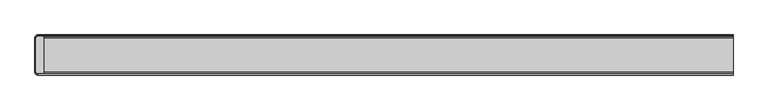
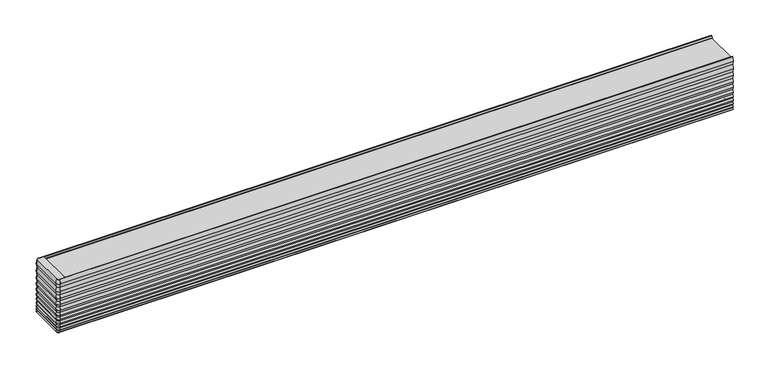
"""IFC4 building model written with IfcOpenShell, lengths in millimetres: light fixture geometry, Lighting-Ceiling-Betacalco-Bellows-Straight : BLLC-DT1-SL04-LPF020-CR80-CTA40-DD1-FA01."""

from ifc_helpers import new_model, si_unit, point, frame, frame_2d, origin, place, context, project, spatial, polyline, circle_curve, trimmed, segment, composite_curve, outline, extrude, source, transform, mapped, element, save
from ifc_brep_helpers import plane_surface, revolved_surface, advanced_brep


def light_fixture_fc643ec0(model_context):
    return source(origin(), model_context, "Body", "SolidModel", [
        advanced_brep(
        [(-609.6, -35.1474913, 2.032), (-609.6, -33.3694913, 0.0), (-609.6, 33.3694913, 0.0), (-609.6, 35.1474913, 2.032), (-609.6, 33.3694913, 4.064), (-609.6, 35.1474913, 6.604), (-609.6, 33.3694913, 9.144), (-609.6, 35.1474913, 12.192), (-609.6, 33.3694913, 15.24), (-609.6, 35.1474913, 18.796), (-609.6, 33.3694913, 22.352), (-609.6, 35.1474913, 26.162), (-609.6, 33.3694913, 29.972), (-609.6, 35.11885, 34.4703509), (-609.6, 33.3966915, 39.0460566), (-609.6, 35.1239968, 44.1288728), (-609.6, 33.3919128, 49.2119386), (-609.6, 35.1278878, 54.802389), (-609.6, 33.3882749, 60.3929656), (-609.6, 35.1308966, 66.491104), (-609.6, 33.3848944, 72.5911894), (-609.6, 35.1351705, 79.7067168), (-609.6, 33.3815995, 86.8195673), (-609.6, 35.1359826, 94.186321), (-609.6, 33.3694913, 101.6), (-609.6, 32.6229178, 101.6), (-609.6, 32.6229178, 100.2332722), (-609.6, -32.6229178, 100.2332722), (-609.6, -32.6229178, 101.6), (-609.6, -33.3694913, 101.6), (-609.6, -35.1359826, 94.186321), (-609.6, -33.3815995, 86.8195673), (-609.6, -35.1351705, 79.7067168), (-609.6, -33.3848944, 72.5911894), (-609.6, -35.1308966, 66.491104), (-609.6, -33.3882749, 60.3929656), (-609.6, -35.1278878, 54.802389), (-609.6, -33.3919128, 49.2119386), (-609.6, -35.1239968, 44.1288728), (-609.6, -33.3966915, 39.0460566), (-609.6, -35.11885, 34.4703509), (-609.6, -33.3694913, 29.972), (-609.6, -35.1474913, 26.162), (-609.6, -33.3694913, 22.352), (-609.6, -35.1474913, 18.796), (-609.6, -33.3694913, 15.24), (-609.6, -35.1474913, 12.192), (-609.6, -33.3694913, 9.144), (-609.6, -35.1474913, 6.604), (-609.6, -33.3694913, 4.064), (-614.791, -29.9564913, 2.032), (-613.013, -29.9564913, 0.0), (-613.013, 29.9564913, 0.0), (-613.013, -29.9564913, 101.6), (-600.7807007, -32.5154703, 101.6), (-599.6222216, -31.4000598, 101.6), (-599.6222216, 31.4000598, 101.6), (-600.7807007, 32.5154703, 101.6), (-613.013, 29.9564913, 101.6), (-614.7794913, -29.9564913, 94.186321), (-613.0251082, -29.9564913, 86.8195673), (-614.7786792, -29.9564913, 79.7067168), (-613.0284031, -29.9564913, 72.5911894), (-614.7744054, -29.9564913, 66.491104), (-613.0317837, -29.9564913, 60.3929656), (-614.7713965, -29.9564913, 54.802389), (-613.0354215, -29.9564913, 49.2119386), (-614.7675055, -29.9564913, 44.1288728), (-613.0402002, -29.9564913, 39.0460566), (-614.7623587, -29.9564913, 34.4703509), (-613.013, -29.9564913, 29.972), (-614.791, -29.9564913, 26.162), (-613.013, -29.9564913, 22.352), (-614.791, -29.9564913, 18.796), (-613.013, -29.9564913, 15.24), (-614.791, -29.9564913, 12.192), (-613.013, -29.9564913, 9.144), (-614.791, -29.9564913, 6.604), (-613.013, -29.9564913, 4.064), (-614.791, 29.9564913, 2.032), (-614.7794913, 29.9564913, 94.186321), (-613.0251082, 29.9564913, 86.8195673), (-614.7786792, 29.9564913, 79.7067168), (-613.0284031, 29.9564913, 72.5911894), (-614.7744054, 29.9564913, 66.491104), (-613.0317837, 29.9564913, 60.3929656), (-614.7713965, 29.9564913, 54.802389), (-613.0354215, 29.9564913, 49.2119386), (-614.7675055, 29.9564913, 44.1288728), (-613.0402002, 29.9564913, 39.0460566), (-614.7623587, 29.9564913, 34.4703509), (-613.013, 29.9564913, 29.972), (-614.791, 29.9564913, 26.162), (-613.013, 29.9564913, 22.352), (-614.791, 29.9564913, 18.796), (-613.013, 29.9564913, 15.24), (-614.791, 29.9564913, 12.192), (-613.013, 29.9564913, 9.144), (-614.791, 29.9564913, 6.604), (-613.013, 29.9564913, 4.064), (-599.6222216, 31.4000598, 100.2332722), (-599.6222216, -31.4000598, 100.2332722), (-600.7807007, -32.5154703, 100.2332722), (-600.7807007, 32.5154703, 100.2332722)],
        [
            (0, 1),
            (1, 2),
            (2, 3),
            (3, 4),
            (4, 5),
            (5, 6),
            (6, 7),
            (7, 8),
            (8, 9),
            (9, 10),
            (10, 11),
            (11, 12),
            (12, 13),
            (13, 14),
            (14, 15),
            (15, 16),
            (16, 17),
            (17, 18),
            (18, 19),
            (19, 20),
            (20, 21),
            (21, 22),
            (22, 23),
            (23, 24),
            (24, 25),
            (25, 26),
            (26, 27),
            (27, 28),
            (28, 29),
            (29, 30),
            (30, 31),
            (31, 32),
            (32, 33),
            (33, 34),
            (34, 35),
            (35, 36),
            (36, 37),
            (37, 38),
            (38, 39),
            (39, 40),
            (40, 41),
            (41, 42),
            (42, 43),
            (43, 44),
            (44, 45),
            (45, 46),
            (46, 47),
            (47, 48),
            (48, 49),
            (49, 0),
            (0, 50, circle_curve(frame((-609.6, -29.9564913, 2.032), z_axis=(0.0, 0.0, -1.0), x_axis=(0.0, -1.0, 0.0)), 5.191)),
            (50, 51),
            (51, 1, circle_curve(frame((-609.6, -29.9564913, 0.0), z_axis=(0.0, 0.0, 1.0), x_axis=(0.0, -1.0, 0.0)), 3.413)),
            (51, 52),
            (52, 2, circle_curve(frame((-609.6, 29.9564913, 0.0), z_axis=(0.0, 0.0, -1.0), x_axis=(-1.0, 0.0, 0.0)), 3.413)),
            (53, 29, circle_curve(frame((-609.6, -29.9564913, 101.6), z_axis=(0.0, 0.0, 1.0), x_axis=(0.0, -1.0, 0.0)), 3.413)),
            (28, 54),
            (54, 55),
            (55, 56),
            (56, 57),
            (57, 25),
            (24, 58, circle_curve(frame((-609.6, 29.9564913, 101.6), z_axis=(0.0, 0.0, 1.0), x_axis=(-1.0, 0.0, 0.0)), 3.413)),
            (58, 53),
            (53, 59),
            (59, 30, circle_curve(frame((-609.6, -29.9564913, 94.186321), z_axis=(0.0, 0.0, 1.0), x_axis=(0.0, -1.0, 0.0)), 5.1794913)),
            (59, 60),
            (60, 31, circle_curve(frame((-609.6, -29.9564913, 86.8195673), z_axis=(0.0, 0.0, 1.0), x_axis=(0.0, -1.0, 0.0)), 3.4251082)),
            (60, 61),
            (61, 32, circle_curve(frame((-609.6, -29.9564913, 79.7067168), z_axis=(0.0, 0.0, 1.0), x_axis=(0.0, -1.0, 0.0)), 5.1786792)),
            (61, 62),
            (62, 33, circle_curve(frame((-609.6, -29.9564913, 72.5911894), z_axis=(0.0, 0.0, 1.0), x_axis=(0.0, -1.0, 0.0)), 3.4284031)),
            (62, 63),
            (63, 34, circle_curve(frame((-609.6, -29.9564913, 66.491104), z_axis=(0.0, 0.0, 1.0), x_axis=(0.0, -1.0, 0.0)), 5.1744054)),
            (63, 64),
            (64, 35, circle_curve(frame((-609.6, -29.9564913, 60.3929656), z_axis=(0.0, 0.0, 1.0), x_axis=(0.0, -1.0, 0.0)), 3.4317837)),
            (64, 65),
            (65, 36, circle_curve(frame((-609.6, -29.9564913, 54.802389), z_axis=(0.0, 0.0, 1.0), x_axis=(0.0, -1.0, 0.0)), 5.1713965)),
            (65, 66),
            (66, 37, circle_curve(frame((-609.6, -29.9564913, 49.2119386), z_axis=(0.0, 0.0, 1.0), x_axis=(0.0, -1.0, 0.0)), 3.4354215)),
            (66, 67),
            (67, 38, circle_curve(frame((-609.6, -29.9564913, 44.1288728), z_axis=(0.0, 0.0, 1.0), x_axis=(0.0, -1.0, 0.0)), 5.1675055)),
            (67, 68),
            (68, 39, circle_curve(frame((-609.6, -29.9564913, 39.0460566), z_axis=(0.0, 0.0, 1.0), x_axis=(0.0, -1.0, 0.0)), 3.4402002)),
            (68, 69),
            (69, 40, circle_curve(frame((-609.6, -29.9564913, 34.4703509), z_axis=(0.0, 0.0, 1.0), x_axis=(0.0, -1.0, 0.0)), 5.1623587)),
            (69, 70),
            (70, 41, circle_curve(frame((-609.6, -29.9564913, 29.972), z_axis=(0.0, 0.0, 1.0), x_axis=(0.0, -1.0, 0.0)), 3.413)),
            (70, 71),
            (71, 42, circle_curve(frame((-609.6, -29.9564913, 26.162), z_axis=(0.0, 0.0, 1.0), x_axis=(0.0, -1.0, 0.0)), 5.191)),
            (71, 72),
            (72, 43, circle_curve(frame((-609.6, -29.9564913, 22.352), z_axis=(0.0, 0.0, 1.0), x_axis=(0.0, -1.0, 0.0)), 3.413)),
            (72, 73),
            (73, 44, circle_curve(frame((-609.6, -29.9564913, 18.796), z_axis=(0.0, 0.0, 1.0), x_axis=(0.0, -1.0, 0.0)), 5.191)),
            (73, 74),
            (74, 45, circle_curve(frame((-609.6, -29.9564913, 15.24), z_axis=(0.0, 0.0, 1.0), x_axis=(0.0, -1.0, 0.0)), 3.413)),
            (74, 75),
            (75, 46, circle_curve(frame((-609.6, -29.9564913, 12.192), z_axis=(0.0, 0.0, 1.0), x_axis=(0.0, -1.0, 0.0)), 5.191)),
            (75, 76),
            (76, 47, circle_curve(frame((-609.6, -29.9564913, 9.144), z_axis=(0.0, 0.0, 1.0), x_axis=(0.0, -1.0, 0.0)), 3.413)),
            (76, 77),
            (77, 48, circle_curve(frame((-609.6, -29.9564913, 6.604), z_axis=(0.0, 0.0, 1.0), x_axis=(0.0, -1.0, 0.0)), 5.191)),
            (77, 78),
            (78, 49, circle_curve(frame((-609.6, -29.9564913, 4.064), z_axis=(0.0, 0.0, 1.0), x_axis=(0.0, -1.0, 0.0)), 3.413)),
            (78, 50),
            (50, 79),
            (79, 52),
            (58, 80),
            (80, 59),
            (80, 81),
            (81, 60),
            (81, 82),
            (82, 61),
            (82, 83),
            (83, 62),
            (83, 84),
            (84, 63),
            (84, 85),
            (85, 64),
            (85, 86),
            (86, 65),
            (86, 87),
            (87, 66),
            (87, 88),
            (88, 67),
            (88, 89),
            (89, 68),
            (89, 90),
            (90, 69),
            (90, 91),
            (91, 70),
            (91, 92),
            (92, 71),
            (92, 93),
            (93, 72),
            (93, 94),
            (94, 73),
            (94, 95),
            (95, 74),
            (95, 96),
            (96, 75),
            (96, 97),
            (97, 76),
            (97, 98),
            (98, 77),
            (98, 99),
            (99, 78),
            (99, 79),
            (100, 101),
            (101, 102),
            (102, 27),
            (26, 103),
            (103, 100),
            (56, 100),
            (103, 57),
            (102, 54),
            (101, 55),
            (79, 3, circle_curve(frame((-609.6, 29.9564913, 2.032), z_axis=(0.0, 0.0, -1.0), x_axis=(-1.0, 0.0, 0.0)), 5.191)),
            (23, 80, circle_curve(frame((-609.6, 29.9564913, 94.186321), z_axis=(0.0, 0.0, 1.0), x_axis=(-1.0, 0.0, 0.0)), 5.1794913)),
            (22, 81, circle_curve(frame((-609.6, 29.9564913, 86.8195673), z_axis=(0.0, 0.0, 1.0), x_axis=(-1.0, 0.0, 0.0)), 3.4251082)),
            (21, 82, circle_curve(frame((-609.6, 29.9564913, 79.7067168), z_axis=(0.0, 0.0, 1.0), x_axis=(-1.0, 0.0, 0.0)), 5.1786792)),
            (20, 83, circle_curve(frame((-609.6, 29.9564913, 72.5911894), z_axis=(0.0, 0.0, 1.0), x_axis=(-1.0, 0.0, 0.0)), 3.4284031)),
            (19, 84, circle_curve(frame((-609.6, 29.9564913, 66.491104), z_axis=(0.0, 0.0, 1.0), x_axis=(-1.0, 0.0, 0.0)), 5.1744054)),
            (18, 85, circle_curve(frame((-609.6, 29.9564913, 60.3929656), z_axis=(0.0, 0.0, 1.0), x_axis=(-1.0, 0.0, 0.0)), 3.4317837)),
            (17, 86, circle_curve(frame((-609.6, 29.9564913, 54.802389), z_axis=(0.0, 0.0, 1.0), x_axis=(-1.0, 0.0, 0.0)), 5.1713965)),
            (16, 87, circle_curve(frame((-609.6, 29.9564913, 49.2119386), z_axis=(0.0, 0.0, 1.0), x_axis=(-1.0, 0.0, 0.0)), 3.4354215)),
            (15, 88, circle_curve(frame((-609.6, 29.9564913, 44.1288728), z_axis=(0.0, 0.0, 1.0), x_axis=(-1.0, 0.0, 0.0)), 5.1675055)),
            (14, 89, circle_curve(frame((-609.6, 29.9564913, 39.0460566), z_axis=(0.0, 0.0, 1.0), x_axis=(-1.0, 0.0, 0.0)), 3.4402002)),
            (13, 90, circle_curve(frame((-609.6, 29.9564913, 34.4703509), z_axis=(0.0, 0.0, 1.0), x_axis=(-1.0, 0.0, 0.0)), 5.1623587)),
            (12, 91, circle_curve(frame((-609.6, 29.9564913, 29.972), z_axis=(0.0, 0.0, 1.0), x_axis=(-1.0, 0.0, 0.0)), 3.413)),
            (11, 92, circle_curve(frame((-609.6, 29.9564913, 26.162), z_axis=(0.0, 0.0, 1.0), x_axis=(-1.0, 0.0, 0.0)), 5.191)),
            (10, 93, circle_curve(frame((-609.6, 29.9564913, 22.352), z_axis=(0.0, 0.0, 1.0), x_axis=(-1.0, 0.0, 0.0)), 3.413)),
            (9, 94, circle_curve(frame((-609.6, 29.9564913, 18.796), z_axis=(0.0, 0.0, 1.0), x_axis=(-1.0, 0.0, 0.0)), 5.191)),
            (8, 95, circle_curve(frame((-609.6, 29.9564913, 15.24), z_axis=(0.0, 0.0, 1.0), x_axis=(-1.0, 0.0, 0.0)), 3.413)),
            (7, 96, circle_curve(frame((-609.6, 29.9564913, 12.192), z_axis=(0.0, 0.0, 1.0), x_axis=(-1.0, 0.0, 0.0)), 5.191)),
            (6, 97, circle_curve(frame((-609.6, 29.9564913, 9.144), z_axis=(0.0, 0.0, 1.0), x_axis=(-1.0, 0.0, 0.0)), 3.413)),
            (5, 98, circle_curve(frame((-609.6, 29.9564913, 6.604), z_axis=(0.0, 0.0, 1.0), x_axis=(-1.0, 0.0, 0.0)), 5.191)),
            (4, 99, circle_curve(frame((-609.6, 29.9564913, 4.064), z_axis=(0.0, 0.0, 1.0), x_axis=(-1.0, 0.0, 0.0)), 3.413)),
        ],
        [
            plane_surface(frame((-609.6, -35.3935941, 0.0), z_axis=(1.0, 0.0, 0.0), x_axis=(0.0, 0.0, 1.0))),
            revolved_surface(polyline([(-609.6, -35.1474913, 2.032), (-609.6, -33.3694913, 0.0)]), (-609.6, -29.9564913, 0.0), (0.0, 0.0, -1.0)),
            plane_surface(frame((-609.6, -29.9564913, 0.0), z_axis=(0.0, 0.0, -1.0), x_axis=(0.0, -1.0, 0.0))),
            plane_surface(frame((-609.6, -29.9564913, 101.6), z_axis=(0.0, 0.0, 1.0), x_axis=(0.0, -1.0, 0.0))),
            revolved_surface(polyline([(-609.6, -33.3694913, 101.6), (-609.6, -35.1359826, 94.186321)]), (-609.6, -29.9564913, 0.0), (0.0, 0.0, -1.0)),
            revolved_surface(polyline([(-609.6, -35.1359826, 94.186321), (-609.6, -33.3815995, 86.8195673)]), (-609.6, -29.9564913, 0.0), (0.0, 0.0, -1.0)),
            revolved_surface(polyline([(-609.6, -33.3815995, 86.8195673), (-609.6, -35.1351705, 79.7067168)]), (-609.6, -29.9564913, 0.0), (0.0, 0.0, -1.0)),
            revolved_surface(polyline([(-609.6, -35.1351705, 79.7067168), (-609.6, -33.3848944, 72.5911894)]), (-609.6, -29.9564913, 0.0), (0.0, 0.0, -1.0)),
            revolved_surface(polyline([(-609.6, -33.3848944, 72.5911894), (-609.6, -35.1308966, 66.491104)]), (-609.6, -29.9564913, 0.0), (0.0, 0.0, -1.0)),
            revolved_surface(polyline([(-609.6, -35.1308966, 66.491104), (-609.6, -33.3882749, 60.3929656)]), (-609.6, -29.9564913, 0.0), (0.0, 0.0, -1.0)),
            revolved_surface(polyline([(-609.6, -33.3882749, 60.3929656), (-609.6, -35.1278878, 54.802389)]), (-609.6, -29.9564913, 0.0), (0.0, 0.0, -1.0)),
            revolved_surface(polyline([(-609.6, -35.1278878, 54.802389), (-609.6, -33.3919128, 49.2119386)]), (-609.6, -29.9564913, 0.0), (0.0, 0.0, -1.0)),
            revolved_surface(polyline([(-609.6, -33.3919128, 49.2119386), (-609.6, -35.1239968, 44.1288728)]), (-609.6, -29.9564913, 0.0), (0.0, 0.0, -1.0)),
            revolved_surface(polyline([(-609.6, -35.1239968, 44.1288728), (-609.6, -33.3966915, 39.0460566)]), (-609.6, -29.9564913, 0.0), (0.0, 0.0, -1.0)),
            revolved_surface(polyline([(-609.6, -33.3966915, 39.0460566), (-609.6, -35.11885, 34.4703509)]), (-609.6, -29.9564913, 0.0), (0.0, 0.0, -1.0)),
            revolved_surface(polyline([(-609.6, -35.11885, 34.4703509), (-609.6, -33.3694913, 29.972)]), (-609.6, -29.9564913, 0.0), (0.0, 0.0, -1.0)),
            revolved_surface(polyline([(-609.6, -33.3694913, 29.972), (-609.6, -35.1474913, 26.162)]), (-609.6, -29.9564913, 0.0), (0.0, 0.0, -1.0)),
            revolved_surface(polyline([(-609.6, -35.1474913, 26.162), (-609.6, -33.3694913, 22.352)]), (-609.6, -29.9564913, 0.0), (0.0, 0.0, -1.0)),
            revolved_surface(polyline([(-609.6, -33.3694913, 22.352), (-609.6, -35.1474913, 18.796)]), (-609.6, -29.9564913, 0.0), (0.0, 0.0, -1.0)),
            revolved_surface(polyline([(-609.6, -35.1474913, 18.796), (-609.6, -33.3694913, 15.24)]), (-609.6, -29.9564913, 0.0), (0.0, 0.0, -1.0)),
            revolved_surface(polyline([(-609.6, -33.3694913, 15.24), (-609.6, -35.1474913, 12.192)]), (-609.6, -29.9564913, 0.0), (0.0, 0.0, -1.0)),
            revolved_surface(polyline([(-609.6, -35.1474913, 12.192), (-609.6, -33.3694913, 9.144)]), (-609.6, -29.9564913, 0.0), (0.0, 0.0, -1.0)),
            revolved_surface(polyline([(-609.6, -33.3694913, 9.144), (-609.6, -35.1474913, 6.604)]), (-609.6, -29.9564913, 0.0), (0.0, 0.0, -1.0)),
            revolved_surface(polyline([(-609.6, -35.1474913, 6.604), (-609.6, -33.3694913, 4.064)]), (-609.6, -29.9564913, 0.0), (0.0, 0.0, -1.0)),
            revolved_surface(polyline([(-609.6, -33.3694913, 4.064), (-609.6, -35.1474913, 2.032)]), (-609.6, -29.9564913, 0.0), (0.0, 0.0, -1.0)),
            plane_surface(frame((-614.791, -29.9564913, 2.032), z_axis=(-0.7525766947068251, 0.0, -0.6585046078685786), x_axis=(0.0, 1.0, 0.0))),
            plane_surface(frame((-613.013, -29.9564913, 101.6), z_axis=(-0.9727668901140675, 0.0, 0.23178562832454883), x_axis=(0.0, 1.0, 0.0))),
            plane_surface(frame((-614.7794913, -29.9564913, 94.186321), z_axis=(-0.9727944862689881, 0.0, -0.23166978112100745), x_axis=(0.0, 1.0, 0.0))),
            plane_surface(frame((-613.0251082, -29.9564913, 86.8195673), z_axis=(-0.9709287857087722, 0.0, 0.23936852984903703), x_axis=(0.0, 1.0, 0.0))),
            plane_surface(frame((-614.7786792, -29.9564913, 79.7067168), z_axis=(-0.9710540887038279, 0.0, -0.23885970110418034), x_axis=(0.0, 1.0, 0.0))),
            plane_surface(frame((-613.0284031, -29.9564913, 72.5911894), z_axis=(-0.9613939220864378, 0.0, 0.27517581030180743), x_axis=(0.0, 1.0, 0.0))),
            plane_surface(frame((-614.7744054, -29.9564913, 66.491104), z_axis=(-0.9615116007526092, 0.0, -0.2747643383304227), x_axis=(0.0, 1.0, 0.0))),
            plane_surface(frame((-613.0317837, -29.9564913, 60.3929656), z_axis=(-0.9548411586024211, 0.0, 0.29711674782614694), x_axis=(0.0, 1.0, 0.0))),
            plane_surface(frame((-614.7713965, -29.9564913, 54.802389), z_axis=(-0.9550153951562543, 0.0, -0.29655622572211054), x_axis=(0.0, 1.0, 0.0))),
            plane_surface(frame((-613.0354215, -29.9564913, 49.2119386), z_axis=(-0.9465545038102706, 0.0, 0.3225439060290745), x_axis=(0.0, 1.0, 0.0))),
            plane_surface(frame((-614.7675055, -29.9564913, 44.1288728), z_axis=(-0.9468211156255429, 0.0, -0.3217604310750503), x_axis=(0.0, 1.0, 0.0))),
            plane_surface(frame((-613.0402002, -29.9564913, 39.0460566), z_axis=(-0.9359069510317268, 0.0, 0.3522473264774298), x_axis=(0.0, 1.0, 0.0))),
            plane_surface(frame((-614.7623587, -29.9564913, 34.4703509), z_axis=(-0.9320046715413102, 0.0, -0.36244626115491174), x_axis=(0.0, 1.0, 0.0))),
            plane_surface(frame((-613.013, -29.9564913, 29.972), z_axis=(-0.9061831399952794, 0.0, 0.42288546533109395), x_axis=(0.0, 1.0, 0.0))),
            plane_surface(frame((-614.791, -29.9564913, 26.162), z_axis=(-0.9061831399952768, 0.0, -0.42288546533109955), x_axis=(0.0, 1.0, 0.0))),
            plane_surface(frame((-613.013, -29.9564913, 22.352), z_axis=(-0.8944271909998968, 0.0, 0.4472135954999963), x_axis=(0.0, 1.0, 0.0))),
            plane_surface(frame((-614.791, -29.9564913, 18.796), z_axis=(-0.8944271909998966, 0.0, -0.44721359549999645), x_axis=(0.0, 1.0, 0.0))),
            plane_surface(frame((-613.013, -29.9564913, 15.24), z_axis=(-0.8637789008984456, 0.0, 0.5038710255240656), x_axis=(0.0, 1.0, 0.0))),
            plane_surface(frame((-614.791, -29.9564913, 12.192), z_axis=(-0.8637789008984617, 0.0, -0.503871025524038), x_axis=(0.0, 1.0, 0.0))),
            plane_surface(frame((-613.013, -29.9564913, 9.144), z_axis=(-0.8192319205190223, 0.0, 0.5734623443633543), x_axis=(0.0, 1.0, 0.0))),
            plane_surface(frame((-614.791, -29.9564913, 6.604), z_axis=(-0.8192319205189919, 0.0, -0.5734623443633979), x_axis=(0.0, 1.0, 0.0))),
            plane_surface(frame((-613.013, -29.9564913, 4.064), z_axis=(-0.7525766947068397, 0.0, 0.6585046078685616), x_axis=(0.0, 1.0, 0.0))),
            plane_surface(frame((-599.6222216, 31.4000598, 100.2332722), z_axis=(0.0, 0.0, -1.0), x_axis=(0.7203705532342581, -0.6935894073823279, 0.0))),
            plane_surface(frame((-599.6222216, 31.4000598, 101.6), z_axis=(0.6935894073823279, 0.7203705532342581, 0.0), x_axis=(0.0, 0.0, -1.0))),
            plane_surface(frame((-600.7807007, 32.5154703, 101.6), z_axis=(0.012182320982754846, 0.9999257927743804, 0.0), x_axis=(0.0, 0.0, -1.0))),
            plane_surface(frame((-609.6, -32.6229178, 101.6), z_axis=(0.012182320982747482, -0.9999257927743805, 0.0), x_axis=(0.0, 0.0, -1.0))),
            plane_surface(frame((-600.7807007, -32.5154703, 101.6), z_axis=(0.6935894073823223, -0.7203705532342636, 0.0), x_axis=(0.0, 0.0, -1.0))),
            plane_surface(frame((-599.6222216, -31.4000598, 101.6), z_axis=(1.0, 0.0, 0.0), x_axis=(0.0, 0.0, -1.0))),
            revolved_surface(polyline([(-614.791, 29.9564913, 2.032), (-613.013, 29.9564913, 0.0)]), (-609.6, 29.9564913, 0.0), (0.0, 0.0, -1.0)),
            revolved_surface(polyline([(-613.013, 29.9564913, 101.6), (-614.7794913, 29.9564913, 94.186321)]), (-609.6, 29.9564913, 0.0), (0.0, 0.0, -1.0)),
            revolved_surface(polyline([(-614.7794913, 29.9564913, 94.186321), (-613.0251082, 29.9564913, 86.8195673)]), (-609.6, 29.9564913, 0.0), (0.0, 0.0, -1.0)),
            revolved_surface(polyline([(-613.0251082, 29.9564913, 86.8195673), (-614.7786792, 29.9564913, 79.7067168)]), (-609.6, 29.9564913, 0.0), (0.0, 0.0, -1.0)),
            revolved_surface(polyline([(-614.7786792, 29.9564913, 79.7067168), (-613.0284031, 29.9564913, 72.5911894)]), (-609.6, 29.9564913, 0.0), (0.0, 0.0, -1.0)),
            revolved_surface(polyline([(-613.0284031, 29.9564913, 72.5911894), (-614.7744054, 29.9564913, 66.491104)]), (-609.6, 29.9564913, 0.0), (0.0, 0.0, -1.0)),
            revolved_surface(polyline([(-614.7744054, 29.9564913, 66.491104), (-613.0317837, 29.9564913, 60.3929656)]), (-609.6, 29.9564913, 0.0), (0.0, 0.0, -1.0)),
            revolved_surface(polyline([(-613.0317837, 29.9564913, 60.3929656), (-614.7713965, 29.9564913, 54.802389)]), (-609.6, 29.9564913, 0.0), (0.0, 0.0, -1.0)),
            revolved_surface(polyline([(-614.7713965, 29.9564913, 54.802389), (-613.0354215, 29.9564913, 49.2119386)]), (-609.6, 29.9564913, 0.0), (0.0, 0.0, -1.0)),
            revolved_surface(polyline([(-613.0354215, 29.9564913, 49.2119386), (-614.7675055, 29.9564913, 44.1288728)]), (-609.6, 29.9564913, 0.0), (0.0, 0.0, -1.0)),
            revolved_surface(polyline([(-614.7675055, 29.9564913, 44.1288728), (-613.0402002, 29.9564913, 39.0460566)]), (-609.6, 29.9564913, 0.0), (0.0, 0.0, -1.0)),
            revolved_surface(polyline([(-613.0402002, 29.9564913, 39.0460566), (-614.7623587, 29.9564913, 34.4703509)]), (-609.6, 29.9564913, 0.0), (0.0, 0.0, -1.0)),
            revolved_surface(polyline([(-614.7623587, 29.9564913, 34.4703509), (-613.013, 29.9564913, 29.972)]), (-609.6, 29.9564913, 0.0), (0.0, 0.0, -1.0)),
            revolved_surface(polyline([(-613.013, 29.9564913, 29.972), (-614.791, 29.9564913, 26.162)]), (-609.6, 29.9564913, 0.0), (0.0, 0.0, -1.0)),
            revolved_surface(polyline([(-614.791, 29.9564913, 26.162), (-613.013, 29.9564913, 22.352)]), (-609.6, 29.9564913, 0.0), (0.0, 0.0, -1.0)),
            revolved_surface(polyline([(-613.013, 29.9564913, 22.352), (-614.791, 29.9564913, 18.796)]), (-609.6, 29.9564913, 0.0), (0.0, 0.0, -1.0)),
            revolved_surface(polyline([(-614.791, 29.9564913, 18.796), (-613.013, 29.9564913, 15.24)]), (-609.6, 29.9564913, 0.0), (0.0, 0.0, -1.0)),
            revolved_surface(polyline([(-613.013, 29.9564913, 15.24), (-614.791, 29.9564913, 12.192)]), (-609.6, 29.9564913, 0.0), (0.0, 0.0, -1.0)),
            revolved_surface(polyline([(-614.791, 29.9564913, 12.192), (-613.013, 29.9564913, 9.144)]), (-609.6, 29.9564913, 0.0), (0.0, 0.0, -1.0)),
            revolved_surface(polyline([(-613.013, 29.9564913, 9.144), (-614.791, 29.9564913, 6.604)]), (-609.6, 29.9564913, 0.0), (0.0, 0.0, -1.0)),
            revolved_surface(polyline([(-614.791, 29.9564913, 6.604), (-613.013, 29.9564913, 4.064)]), (-609.6, 29.9564913, 0.0), (0.0, 0.0, -1.0)),
            revolved_surface(polyline([(-613.013, 29.9564913, 4.064), (-614.791, 29.9564913, 2.032)]), (-609.6, 29.9564913, 0.0), (0.0, 0.0, -1.0)),
        ],
        [
            (0, [[1, 2, 3, 4, 5, 6, 7, 8, 9, 10, 11, 12, 13, 14, 15, 16, 17, 18, 19, 20, 21, 22, 23, 24, 25, 26, 27, 28, 29, 30, 31, 32, 33, 34, 35, 36, 37, 38, 39, 40, 41, 42, 43, 44, 45, 46, 47, 48, 49, 50]]),
            (1, [[-1, 51, 52, 53]]),
            (2, [[-2, -53, 54, 55]]),
            (3, [[56, -29, 57, 58, 59, 60, 61, -25, 62, 63]]),
            (4, [[-30, -56, 64, 65]]),
            (5, [[-31, -65, 66, 67]]),
            (6, [[-32, -67, 68, 69]]),
            (7, [[-33, -69, 70, 71]]),
            (8, [[-34, -71, 72, 73]]),
            (9, [[-35, -73, 74, 75]]),
            (10, [[-36, -75, 76, 77]]),
            (11, [[-37, -77, 78, 79]]),
            (12, [[-38, -79, 80, 81]]),
            (13, [[-39, -81, 82, 83]]),
            (14, [[-40, -83, 84, 85]]),
            (15, [[-41, -85, 86, 87]]),
            (16, [[-42, -87, 88, 89]]),
            (17, [[-43, -89, 90, 91]]),
            (18, [[-44, -91, 92, 93]]),
            (19, [[-45, -93, 94, 95]]),
            (20, [[-46, -95, 96, 97]]),
            (21, [[-47, -97, 98, 99]]),
            (22, [[-48, -99, 100, 101]]),
            (23, [[-49, -101, 102, 103]]),
            (24, [[-50, -103, 104, -51]]),
            (25, [[-52, 105, 106, -54]]),
            (26, [[-63, 107, 108, -64]]),
            (27, [[-66, -108, 109, 110]]),
            (28, [[-68, -110, 111, 112]]),
            (29, [[-70, -112, 113, 114]]),
            (30, [[-72, -114, 115, 116]]),
            (31, [[-74, -116, 117, 118]]),
            (32, [[-76, -118, 119, 120]]),
            (33, [[-78, -120, 121, 122]]),
            (34, [[-80, -122, 123, 124]]),
            (35, [[-82, -124, 125, 126]]),
            (36, [[-84, -126, 127, 128]]),
            (37, [[-86, -128, 129, 130]]),
            (38, [[-88, -130, 131, 132]]),
            (39, [[-90, -132, 133, 134]]),
            (40, [[-92, -134, 135, 136]]),
            (41, [[-94, -136, 137, 138]]),
            (42, [[-96, -138, 139, 140]]),
            (43, [[-98, -140, 141, 142]]),
            (44, [[-100, -142, 143, 144]]),
            (45, [[-102, -144, 145, 146]]),
            (46, [[-104, -146, 147, -105]]),
            (47, [[148, 149, 150, -27, 151, 152]]),
            (48, [[-60, 153, -152, 154]]),
            (49, [[-61, -154, -151, -26]]),
            (50, [[-57, -28, -150, 155]]),
            (51, [[-58, -155, -149, 156]]),
            (52, [[-59, -156, -148, -153]]),
            (53, [[-55, -106, 157, -3]]),
            (54, [[-62, -24, 158, -107]]),
            (55, [[-109, -158, -23, 159]]),
            (56, [[-111, -159, -22, 160]]),
            (57, [[-113, -160, -21, 161]]),
            (58, [[-115, -161, -20, 162]]),
            (59, [[-117, -162, -19, 163]]),
            (60, [[-119, -163, -18, 164]]),
            (61, [[-121, -164, -17, 165]]),
            (62, [[-123, -165, -16, 166]]),
            (63, [[-125, -166, -15, 167]]),
            (64, [[-127, -167, -14, 168]]),
            (65, [[-129, -168, -13, 169]]),
            (66, [[-131, -169, -12, 170]]),
            (67, [[-133, -170, -11, 171]]),
            (68, [[-135, -171, -10, 172]]),
            (69, [[-137, -172, -9, 173]]),
            (70, [[-139, -173, -8, 174]]),
            (71, [[-141, -174, -7, 175]]),
            (72, [[-143, -175, -6, 176]]),
            (73, [[-145, -176, -5, 177]]),
            (74, [[-147, -177, -4, -157]]),
        ],
    ),
        extrude(outline(polyline([(609.6, 31.222), (609.6, -31.222), (-609.6, -31.222), (-609.6, 31.222), (609.6, 31.222)])), frame((0.0, 0.0, 96.3991196), z_axis=(0.0, 0.0, 1.0), x_axis=(1.0, 0.0, 0.0)), (0.0, 0.0, 1.0), 1.397),
        extrude(outline(composite_curve([segment(polyline([(-31.222, 10.668), (-31.222, 2.159), (-28.6925845, 2.159)]), True, "CONTINUOUS"), segment(trimmed(circle_curve(frame_2d((-30.6378, 1.9558)), 1.9558), [point((-28.6925845, 2.159))], [point((-30.6378, 0.0))], False, "CARTESIAN"), True, "CONTINUOUS"), segment(polyline([(-30.6378, 0.0), (-33.2887943, 0.0), (-35.1621621, 2.0283861), (-33.381, 4.064), (-35.159, 6.604), (-33.381, 9.144), (-35.159, 12.192), (-33.381, 15.24), (-35.159, 18.796), (-33.381, 22.352), (-35.159, 26.162), (-33.381, 29.972), (-35.1303587, 34.4703509), (-33.4082002, 39.0460566), (-35.1355055, 44.1288728), (-33.4034215, 49.2119386), (-35.1393965, 54.802389), (-33.3997837, 60.3929656), (-35.1424053, 66.491104), (-33.3964031, 72.5911894), (-35.1466792, 79.7067168), (-33.3931082, 86.8195673), (-35.1474913, 94.186321), (-33.3814932, 101.6), (-32.5877432, 101.6), (-30.42825, 99.2470342), (-30.42825, 97.7961196), (-31.222, 97.7961196), (-31.222, 12.827), (-15.4806146, 12.827), (-10.6222255, 22.5473325), (10.6222255, 22.5473325), (15.4806146, 12.827), (31.222, 12.827), (31.222, 97.7961196), (30.42825, 97.7961196), (30.42825, 99.2470342), (32.5877432, 101.6), (33.3814932, 101.6), (35.1474913, 94.186321), (33.3931082, 86.8195673), (35.1466792, 79.7067168), (33.3964031, 72.5911894), (35.1424053, 66.491104), (33.3997837, 60.3929656), (35.1393965, 54.802389), (33.4034215, 49.2119386), (35.1355055, 44.1288728), (33.4082002, 39.0460566), (35.1303587, 34.4703509), (33.381, 29.972), (35.159, 26.162), (33.381, 22.352), (35.159, 18.796), (33.381, 15.24), (35.159, 12.192), (33.381, 9.144), (35.159, 6.604), (33.381, 4.064), (35.1621621, 2.0283861), (33.2887943, 0.0), (30.6378, 0.0)]), True, "CONTINUOUS"), segment(trimmed(circle_curve(frame_2d((30.6378, 1.9558)), 1.9558), [point((30.6378, 0.0))], [point((28.6925845, 2.159))], False, "CARTESIAN"), True, "CONTINUOUS"), segment(polyline([(28.6925845, 2.159), (31.222, 2.159), (31.222, 10.668), (13.5129289, 10.668), (12.7429679, 8.614822)]), True, "CONTINUOUS"), segment(trimmed(circle_curve(frame_2d((11.9002723, 8.9308408)), 0.9000021), [point((12.7429679, 8.614822))], [point((11.0552644, 9.2406239))], False, "CARTESIAN"), True, "CONTINUOUS"), segment(polyline([(11.0552644, 9.2406239), (12.68601, 13.5891701), (12.0641563, 14.8333325), (-12.0641563, 14.8333325), (-12.68601, 13.5891701), (-11.0552644, 9.2406239)]), True, "CONTINUOUS"), segment(trimmed(circle_curve(frame_2d((-11.9002723, 8.9308408)), 0.9000021), [point((-11.0552644, 9.2406239))], [point((-12.7429679, 8.614822))], False, "CARTESIAN"), True, "CONTINUOUS"), segment(polyline([(-12.7429679, 8.614822), (-13.5129289, 10.668), (-31.222, 10.668)]), True, "CONTINUOUS")], self_intersect=False)), frame((-609.6, 0.0, 0.0), z_axis=(1.0, 0.0, 0.0), x_axis=(0.0, 1.0, 0.0)), (0.0, 0.0, 1.0), 1219.2),
    ])


if __name__ == "__main__":
    model = new_model("IFC4")
    model_context = context("Model", 3, world=origin())
    ifc_project = project(units=[si_unit("LENGTHUNIT", "METRE", prefix="MILLI")], contexts=[model_context])
    site = spatial("IfcSite", under=ifc_project)
    building = spatial("IfcBuilding", under=site)
    placement = place(None, origin())
    light_fixture_shape = light_fixture_fc643ec0(model_context)
    element("IfcLightFixture", 1, ObjectType="Lighting-Ceiling-Betacalco-Bellows-Straight : BLLC-DT1-SL04-LPF020-CR80-CTA40-DD1-FA01", at=placement, inside=building, context=model_context, shape_type="MappedRepresentation", body=[
        mapped(light_fixture_shape, transform((0.0, 0.0, 0.0), x_axis=(1.0, 0.0, 0.0), y_axis=(0.0, 1.0, 0.0), z_axis=(0.0, 0.0, 1.0))),
    ])
    save(model, "model.ifc")
